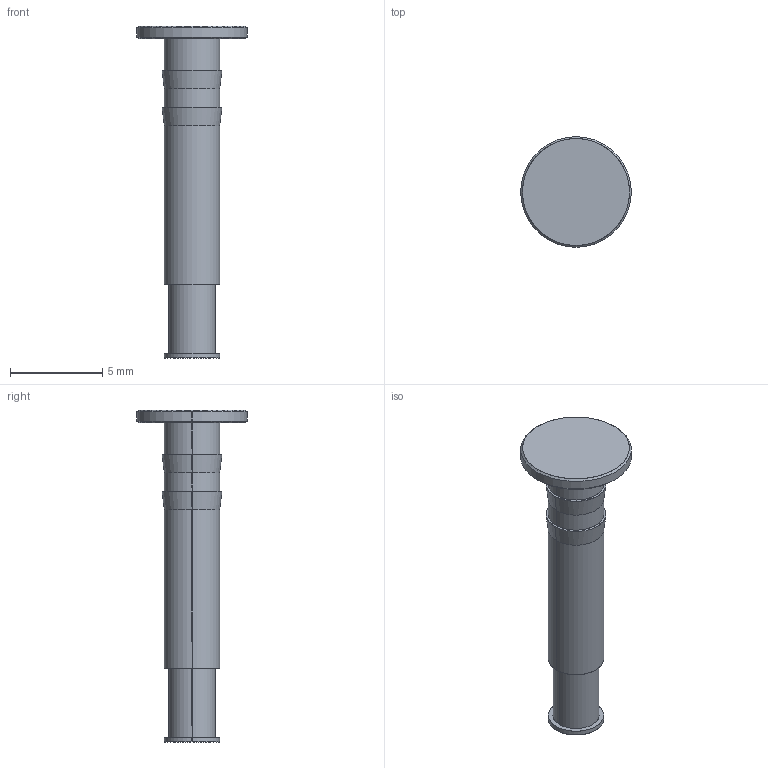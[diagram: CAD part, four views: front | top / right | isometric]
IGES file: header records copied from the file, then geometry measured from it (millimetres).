
Start section: SolidWorks IGES file using analytic representation for surfaces
Global section: file name: \\CODA-VM-SBS\RedirectedFolders\georged\My Documents\CODA FILES NEW\INTERFACING COMPONENTS\CLOSURE CONNECT\LT-LARGE-LT.IGS; native system: SolidWorks 2022; preprocessor: SolidWorks 2022; author: GeorgeD; date: 230522.153421; units: millimetre
Bounding box: 6 x 6 x 18 mm (x, y, z)
Surface area: 232.4 mm2 (no closed solid volume)
Topology: 0 solids, 0 shells, 27 faces, 464 edges, 464 vertices
Faces by surface type: revolution 20, bspline 7
